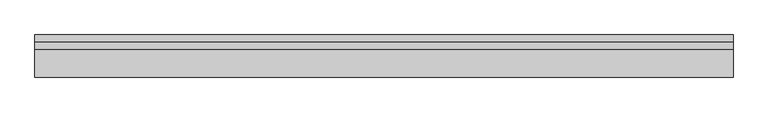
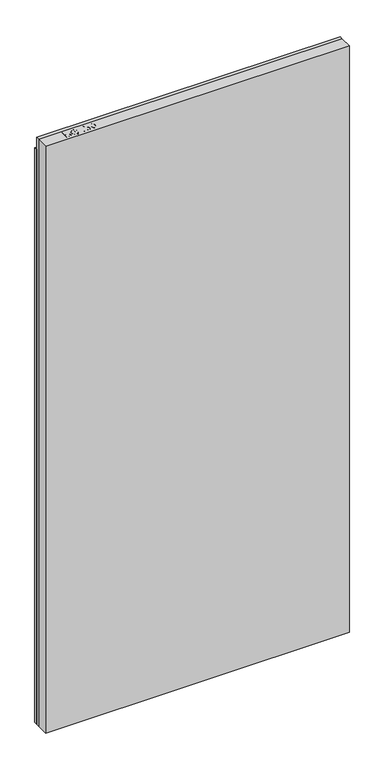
"""IFC4 building model written with IfcOpenShell, lengths in millimetres: proxy geometry, ParedeGeral_Blufab : Parede Geral - Largura 120 cm."""

from ifc_helpers import new_model, si_unit, origin, origin_with_axes, place, context, project, spatial, polyline, outline, extrude, source, transform, mapped, element, save


def generic_models_bfa109d8(model_context):
    return source(origin(), model_context, "Body", "SweptSolid", [
        extrude(outline(polyline([(1200.0, -12.5), (0.0, -12.5), (0.0, 0.0), (1200.0, 0.0), (1200.0, -12.5)])), origin_with_axes(), (0.0, 0.0, 1.0), 2400.0),
        extrude(outline(polyline([(1200.0, -25.0126803), (0.0, -25.0126803), (0.0, -12.5126803), (1200.0, -12.5126803), (1200.0, -25.0126803)])), origin_with_axes(), (0.0, 0.0, 1.0), 2450.0),
        extrude(outline(polyline([(1200.0, -73.0), (0.0, -73.0), (0.0, -25.0126803), (1200.0, -25.0126803), (1200.0, -73.0)])), origin_with_axes(), (0.0, 0.0, 1.0), 2450.0),
        extrude(outline(polyline([(88.5489915, -33.3811762), (92.3161032, -33.3811762), (92.3161032, -45.624289), (99.9754063, -45.624289), (108.727319, -48.2877547), (111.1516613, -54.799266), (110.2540292, -58.9085079), (107.8811904, -61.8221333), (104.2207645, -63.2311213), (99.7178889, -63.5180693), (88.5489915, -63.5180693), (88.5489915, -33.3811762)]), holes=[polyline([(92.3161032, -49.3914006), (92.3161032, -59.7509576), (100.1078438, -59.7509576), (103.8749554, -59.4934402), (106.41702, -57.7864678), (107.3845497, -54.6668285), (105.743796, -50.7746369), (100.1961355, -49.3914006), (92.3161032, -49.3914006)])]), origin_with_axes(), (0.0, 0.0, 1.0), 2450.0),
        extrude(outline(polyline([(130.4581084, -45.1534001), (138.9341096, -45.1534001), (138.9341096, -39.7087465), (135.1191733, -37.6449285), (129.9651465, -36.6773989), (124.2225086, -37.9613071), (120.1022303, -41.8902868), (118.6858846, -48.4569804), (119.863107, -54.3725229), (121.8018451, -57.2751118), (125.0833525, -59.4088274), (129.9062854, -60.2218466), (134.1406072, -59.4676885), (137.0763055, -57.4590528), (138.7943144, -53.9752103), (142.2671205, -54.9537764), (139.9899309, -59.9385774), (135.8586161, -62.9184216), (129.9651465, -63.9889582), (122.0336107, -62.1421906), (116.7545041, -56.495202), (114.9187729, -48.3024699), (116.7618617, -40.2900001), (122.2212305, -34.8048795), (130.2668098, -32.9102873), (136.65692, -34.1022249), (142.7012212, -37.655965), (142.7012212, -48.9205117), (130.4581084, -48.9205117), (130.4581084, -45.1534001)])), origin_with_axes(), (0.0, 0.0, 1.0), 2450.0),
        extrude(outline(polyline([(161.5367794, -33.3811762), (161.5367794, -63.5180693), (159.1087582, -63.5180693), (155.7573532, -59.5081555), (150.2354445, -55.983846), (150.2354445, -52.4227483), (154.2012124, -54.3246982), (157.7696677, -56.8667628), (157.7696677, -33.3811762), (161.5367794, -33.3811762)])), origin_with_axes(), (0.0, 0.0, 1.0), 2450.0),
        extrude(outline(polyline([(189.7901166, -37.1482878), (174.9939028, -37.1482878), (176.6935176, -39.064953), (181.0271675, -42.6885907), (186.4239963, -47.8499751), (188.6496824, -51.5435103), (189.3192276, -55.1156445), (186.8360242, -61.1047634), (180.0927472, -63.5180693), (173.3715432, -61.3475655), (170.4836695, -55.0420681), (174.2507811, -54.5711791), (175.8363525, -58.375079), (180.0118132, -59.7509576), (184.0180481, -58.3419696), (185.552116, -54.8875577), (183.9260776, -50.6201265), (177.4219239, -44.3440597), (172.7056767, -39.9773004), (170.4174507, -35.9784231), (170.0127805, -33.3811762), (189.7901166, -33.3811762), (189.7901166, -37.1482878)])), origin_with_axes(), (0.0, 0.0, 1.0), 2450.0),
        extrude(outline(polyline([(193.5572282, -48.2068206), (196.5591453, -35.7797668), (203.4458963, -32.9102873), (208.9604474, -34.5620774), (212.2382759, -39.5726302), (213.3345643, -48.2068206), (212.6503038, -55.288549), (210.8844702, -59.7472788), (207.8457649, -62.5468608), (203.4458963, -63.5180693), (197.9534181, -61.8773156), (194.664553, -56.8777992), (193.5572282, -48.2068206)]), holes=[polyline([(197.3243399, -48.2141783), (199.1490346, -57.7349643), (203.4017504, -59.7509576), (207.8604802, -57.4627316), (209.5674527, -48.2141783), (207.8016191, -38.8662968), (203.4458963, -36.6773989), (199.0901734, -38.8589391), (197.3243399, -48.2141783)])]), origin_with_axes(), (0.0, 0.0, 1.0), 2450.0),
    ])


if __name__ == "__main__":
    model = new_model("IFC4")
    model_context = context("Model", 3, world=origin())
    ifc_project = project(units=[si_unit("LENGTHUNIT", "METRE", prefix="MILLI")], contexts=[model_context])
    site = spatial("IfcSite", under=ifc_project)
    building = spatial("IfcBuilding", under=site)
    placement = place(None, origin())
    generic_models_shape = generic_models_bfa109d8(model_context)
    element("IfcBuildingElementProxy", 1, Name="ParedeGeral_Blufab : Parede Geral - Largura 120 cm", ObjectType="ParedeGeral_Blufab : Parede Geral - Largura 120 cm", at=placement, inside=building, context=model_context, shape_type="MappedRepresentation", body=[
        mapped(generic_models_shape, transform((0.0, 0.0, 0.0), x_axis=(1.0, 0.0, 0.0), y_axis=(0.0, 1.0, 0.0), z_axis=(0.0, 0.0, 1.0))),
    ])
    save(model, "model.ifc")
